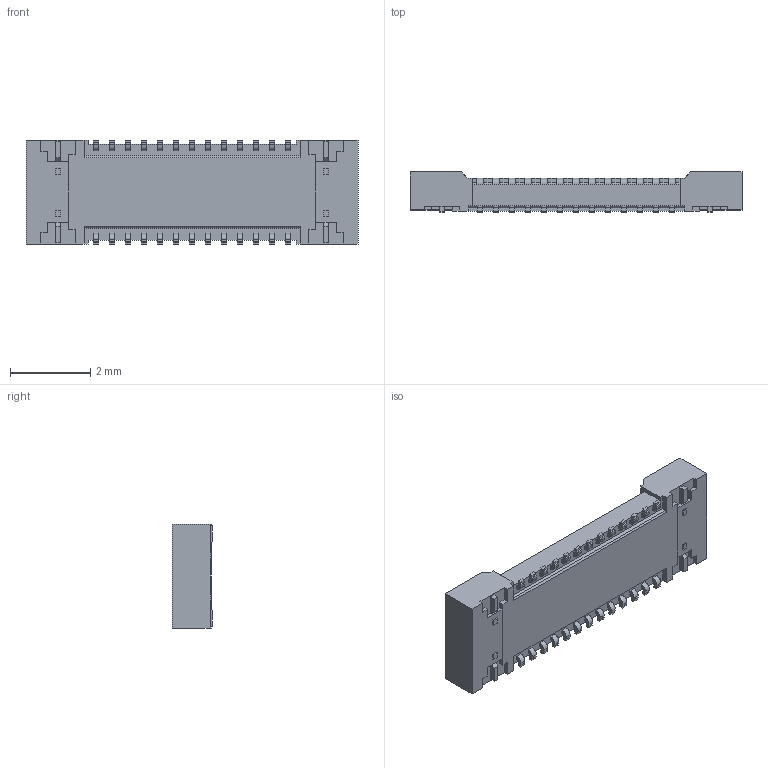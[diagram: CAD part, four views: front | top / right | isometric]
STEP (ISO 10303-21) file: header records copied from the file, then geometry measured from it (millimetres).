
FILE_DESCRIPTION((''),'2;1');
FILE_NAME('5024262610','2018-08-27T',('gga'),(''),'PRO/ENGINEER BY PARAMETRIC TECHNOLOGY CORPORATION, 2016010','PRO/ENGINEER BY PARAMETRIC TECHNOLOGY CORPORATION, 2016010','');
FILE_SCHEMA(('CONFIG_CONTROL_DESIGN'));
Length unit declared in the file: millimetre
Products named in the file (1): 5024262610
Bounding box: 8.3 x 1 x 2.6 mm (x, y, z)
Volume: 12.1 mm3; surface area: 89.8 mm2
Topology: 1 solids, 1 shells, 868 faces, 2456 edges, 1624 vertices
Faces by surface type: plane 662, cylinder 202, cone 4
Entity records: 27649 total; most frequent: CARTESIAN_POINT 4829, ORIENTED_EDGE 4640, DIRECTION 4594, EDGE_CURVE 2320, VECTOR 2048, LINE 2048, VERTEX_POINT 1488, AXIS2_PLACEMENT_3D 1273
